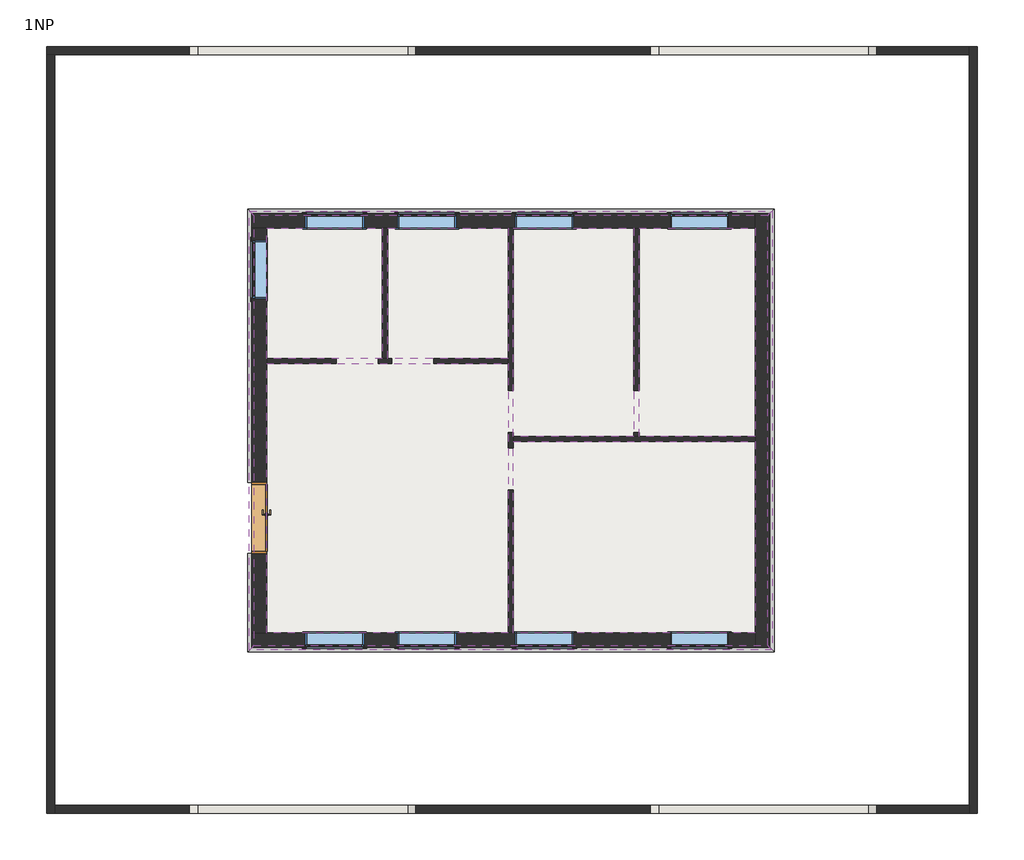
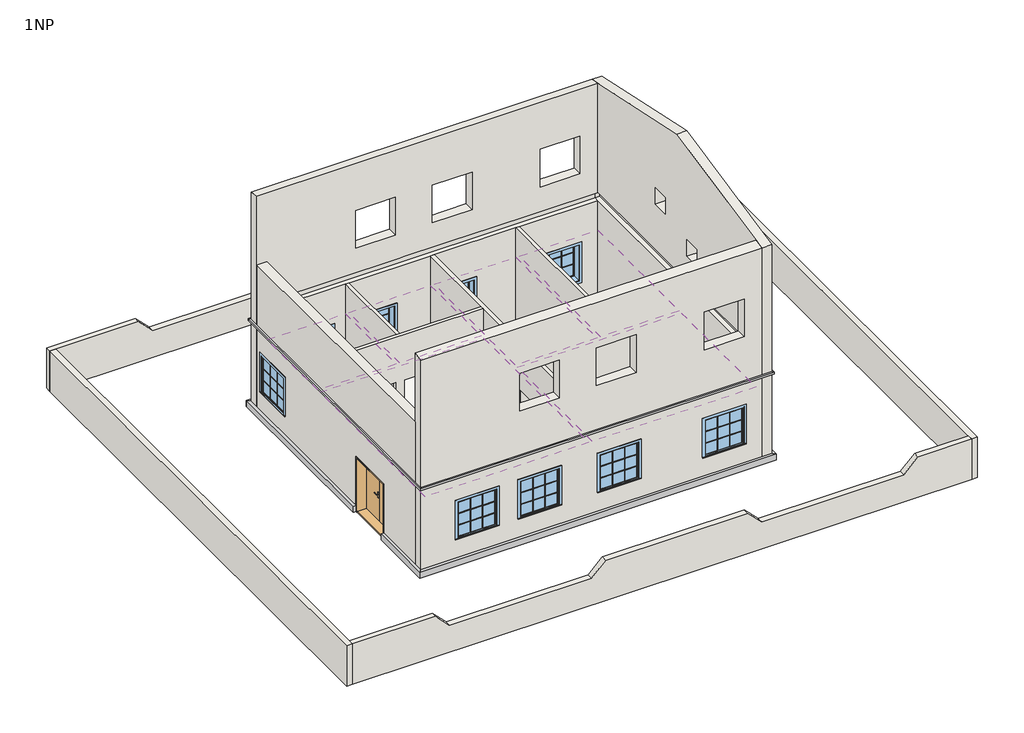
# One storey, incomplete: 13 walls, 9 windows, 8 proxies, 6 coverings, 1 door, 1 slab.
"""IFC4 building model written with IfcOpenShell, lengths in millimetres."""

from ifc_helpers import new_model, si_unit, frame, origin, origin_with_axes, place, context, project, spatial, polyline, outline, extrude, faceted_brep, transform, mapped, element, save
from components import door_1800_x_2000_69ae4523, m_casement_3x3_with_trim_1100_x_1400_df31fcd5

model = new_model("IFC4")

# Units and contexts
model_context = context("Model", 3, world=origin())
ifc_project = project(units=[si_unit("LENGTHUNIT", "METRE", prefix="MILLI")], contexts=[model_context])

# Site, building, storey
site = spatial("IfcSite", under=ifc_project)
building = spatial("IfcBuilding", under=site)
storey = spatial("IfcBuildingStorey", under=building, Name="1NP", Elevation=0.0)

# Proxies
placement = place(None, origin())
element("IfcBuildingElementProxy", 1, Name="Reveals", at=placement, inside=storey, context=model_context, shape_type="SweptSolid", body=[
    extrude(outline(polyline([(41581.5997597, 8705.2898989), (41684.0997597, 8602.7898989), (29219.0997597, 8602.7898989), (29321.5997597, 8705.2898989), (41581.5997597, 8705.2898989)])), frame((0.0, 0.0, 3200.0), z_axis=(0.0, 0.0, 1.0), x_axis=(1.0, 0.0, 0.0)), (0.0, 0.0, 1.0), 75.0),
])
element("IfcBuildingElementProxy", 2, Name="Wall Sweeps", at=placement, inside=storey, context=model_context, shape_type="Brep", body=[
    faceted_brep([(41729.0997597, 8557.7898989, 225.0), (41729.0997597, 8557.7898989, 0.0), (41626.5997597, 8660.2898989, 0.0), (41626.5997597, 8660.2898989, 225.0), (29174.0997597, 8557.7898989, 225.0), (29276.5997597, 8660.2898989, 225.0), (29276.5997597, 8660.2898989, 0.0), (29174.0997597, 8557.7898989, 0.0), (41276.5997597, 8660.2898989, 0.0)], [[[0, 1, 2, 3]], [[4, 5, 6, 7]], [[1, 0, 4, 7]], [[2, 1, 7, 6, 8]], [[3, 2, 8, 6, 5]], [[0, 3, 5, 4]]]),
])
element("IfcBuildingElementProxy", 3, Name="Reveals", at=placement, inside=storey, context=model_context, shape_type="SweptSolid", body=[
    extrude(outline(polyline([(29321.5997597, 18965.2898989), (29219.0997597, 19067.7898989), (41684.0997597, 19067.7898989), (41581.5997597, 18965.2898989), (29321.5997597, 18965.2898989)])), frame((0.0, 0.0, 3200.0), z_axis=(0.0, 0.0, 1.0), x_axis=(1.0, 0.0, 0.0)), (0.0, 0.0, 1.0), 75.0),
])
element("IfcBuildingElementProxy", 4, Name="Wall Sweeps", at=placement, inside=storey, context=model_context, shape_type="Brep", body=[
    faceted_brep([(29174.0997597, 19112.7898989, 225.0), (29174.0997597, 19112.7898989, 0.0), (29276.5997597, 19010.2898989, 0.0), (29276.5997597, 19010.2898989, 225.0), (41729.0997597, 19112.7898989, 225.0), (41626.5997597, 19010.2898989, 225.0), (41626.5997597, 19010.2898989, 0.0), (41729.0997597, 19112.7898989, 0.0), (41276.5997597, 19010.2898989, 0.0)], [[[0, 1, 2, 3]], [[4, 5, 6, 7]], [[1, 0, 4, 7]], [[2, 1, 7, 6, 8]], [[3, 2, 8, 6, 5]], [[0, 3, 5, 4]]]),
])
element("IfcBuildingElementProxy", 5, Name="Reveals", at=placement, inside=storey, context=model_context, shape_type="SweptSolid", body=[
    extrude(outline(polyline([(29321.5997597, 8705.2898989), (29219.0997597, 8602.7898989), (29219.0997597, 19067.7898989), (29321.5997597, 18965.2898989), (29321.5997597, 8705.2898989)])), frame((0.0, 0.0, 3200.0), z_axis=(0.0, 0.0, 1.0), x_axis=(1.0, 0.0, 0.0)), (0.0, 0.0, 1.0), 75.0),
])
element("IfcBuildingElementProxy", 6, Name="Wall Sweeps", at=placement, inside=storey, context=model_context, shape_type="Brep", body=[
    faceted_brep([(29174.0997597, 8557.7898989, 225.0), (29174.0997597, 8557.7898989, 0.0), (29276.5997597, 8660.2898989, 0.0), (29276.5997597, 8660.2898989, 225.0), (29174.0997597, 10900.2898989, 225.0), (29276.5997597, 10900.2898989, 225.0), (29276.5997597, 10900.2898989, 0.0), (29174.0997597, 10900.2898989, 0.0), (29276.5997597, 9010.2898989, 0.0)], [[[0, 1, 2, 3]], [[4, 5, 6, 7]], [[1, 0, 4, 7]], [[2, 1, 7, 6, 8]], [[3, 2, 8, 6, 5]], [[0, 3, 5, 4]]]),
    faceted_brep([(29174.0997597, 12600.2898989, 225.0), (29174.0997597, 12600.2898989, 0.0), (29276.5997597, 12600.2898989, 0.0), (29276.5997597, 12600.2898989, 225.0), (29174.0997597, 19112.7898989, 225.0), (29276.5997597, 19010.2898989, 225.0), (29276.5997597, 19010.2898989, 0.0), (29174.0997597, 19112.7898989, 0.0), (29276.5997597, 18660.2898989, 0.0)], [[[0, 1, 2, 3]], [[4, 5, 6, 7]], [[1, 0, 4, 7]], [[2, 1, 7, 6, 8]], [[3, 2, 8, 6, 5]], [[0, 3, 5, 4]]]),
])
element("IfcBuildingElementProxy", 7, Name="Reveals", at=placement, inside=storey, context=model_context, shape_type="SweptSolid", body=[
    extrude(outline(polyline([(41581.5997597, 18965.2898989), (41684.0997597, 19067.7898989), (41684.0997597, 8602.7898989), (41581.5997597, 8705.2898989), (41581.5997597, 18965.2898989)])), frame((0.0, 0.0, 3200.0), z_axis=(0.0, 0.0, 1.0), x_axis=(1.0, 0.0, 0.0)), (0.0, 0.0, 1.0), 75.0),
])
element("IfcBuildingElementProxy", 8, Name="Wall Sweeps", at=placement, inside=storey, context=model_context, shape_type="SweptSolid", body=[
    extrude(outline(polyline([(41626.5997597, 19010.2898989), (41729.0997597, 19112.7898989), (41729.0997597, 8557.7898989), (41626.5997597, 8660.2898989), (41626.5997597, 19010.2898989)])), origin_with_axes(), (0.0, 0.0, 1.0), 225.0),
])

# Coverings
element("IfcCovering", 9, ObjectType="600 x 1200mm Grid", at=placement, inside=storey, context=model_context, shape_type="SweptSolid", body=[
    extrude(outline(polyline([(29626.5997597, 18660.2898989), (32389.5997597, 18660.2898989), (32389.5997597, 15553.6571646), (29626.5997597, 15553.6571646), (29626.5997597, 18660.2898989)])), frame((0.0, 0.0, 2600.0), z_axis=(0.0, 0.0, 1.0), x_axis=(1.0, 0.0, 0.0)), (0.0, 0.0, 1.0), 52.0),
])
element("IfcCovering", 10, ObjectType="600 x 1200mm Grid", at=placement, inside=storey, context=model_context, shape_type="SweptSolid", body=[
    extrude(outline(polyline([(32513.5997597, 18660.2898989), (35389.5997597, 18660.2898989), (35389.5997597, 15553.6571646), (32513.5997597, 15553.6571646), (32513.5997597, 18660.2898989)])), frame((0.0, 0.0, 2600.0), z_axis=(0.0, 0.0, 1.0), x_axis=(1.0, 0.0, 0.0)), (0.0, 0.0, 1.0), 52.0),
])
element("IfcCovering", 11, ObjectType="600 x 1200mm Grid", at=placement, inside=storey, context=model_context, shape_type="SweptSolid", body=[
    extrude(outline(polyline([(35513.5997597, 13697.2898989), (35513.5997597, 18660.2898989), (38389.5997597, 18660.2898989), (38389.5997597, 13697.2898989), (35513.5997597, 13697.2898989)])), frame((0.0, 0.0, 2600.0), z_axis=(0.0, 0.0, 1.0), x_axis=(1.0, 0.0, 0.0)), (0.0, 0.0, 1.0), 52.0),
])
element("IfcCovering", 12, ObjectType="600 x 1200mm Grid", at=placement, inside=storey, context=model_context, shape_type="SweptSolid", body=[
    extrude(outline(polyline([(38513.5997597, 18660.2898989), (41276.5997597, 18660.2898989), (41276.5997597, 13697.2898989), (38513.5997597, 13697.2898989), (38513.5997597, 18660.2898989)])), frame((0.0, 0.0, 2600.0), z_axis=(0.0, 0.0, 1.0), x_axis=(1.0, 0.0, 0.0)), (0.0, 0.0, 1.0), 52.0),
])
element("IfcCovering", 13, ObjectType="600 x 1200mm Grid", at=placement, inside=storey, context=model_context, shape_type="SweptSolid", body=[
    extrude(outline(polyline([(41276.5997597, 9010.2898989), (35513.5997597, 9010.2898989), (35513.5997597, 13573.2898989), (41276.5997597, 13573.2898989), (41276.5997597, 9010.2898989)])), frame((0.0, 0.0, 2600.0), z_axis=(0.0, 0.0, 1.0), x_axis=(1.0, 0.0, 0.0)), (0.0, 0.0, 1.0), 52.0),
])
element("IfcCovering", 14, ObjectType="600 x 1200mm Grid", at=placement, inside=storey, context=model_context, shape_type="SweptSolid", body=[
    extrude(outline(polyline([(29626.5997597, 9010.2898989), (29626.5997597, 15429.6571646), (35389.5997597, 15429.6571646), (35389.5997597, 9010.2898989), (29626.5997597, 9010.2898989)])), frame((0.0, 0.0, 2600.0), z_axis=(0.0, 0.0, 1.0), x_axis=(1.0, 0.0, 0.0)), (0.0, 0.0, 1.0), 52.0),
])

# Door
door_1800_x_2000_shape = door_1800_x_2000_69ae4523(model_context)
element("IfcDoor", 15, ObjectType="Dvoukridle oboustrana zaruben : 1800 x 2000", at=placement, inside=storey, context=model_context, shape_type="MappedRepresentation", body=[
    mapped(door_1800_x_2000_shape, transform((29451.5997597, 11730.2898989, 0.0), x_axis=(0.0, -1.0, 0.0), y_axis=(1.0, 0.0, 0.0), z_axis=(0.0, 0.0, 1.0))),
])

# Slab
element("IfcSlab", 16, ObjectType="Generic 300mm", at=placement, inside=storey, context=model_context, shape_type="SweptSolid", body=[
    extrude(outline(polyline([(29613.5997597, 18673.2898989), (41289.5997597, 18673.2898989), (41289.5997597, 8997.2898989), (29613.5997597, 8997.2898989), (29613.5997597, 18673.2898989)])), frame((0.0, 0.0, -300.0), z_axis=(0.0, 0.0, 1.0), x_axis=(1.0, 0.0, 0.0)), (0.0, 0.0, 1.0), 300.0),
])

# Walls
element("IfcWall", 17, ObjectType="Exterior-Brick on Mtl. Stud with Base", at=placement, inside=storey, context=model_context, shape_type="Brep", body=[
    faceted_brep([(29276.5997597, 18660.2898989, 0.0), (29626.5997597, 18660.2898989, 0.0), (32389.5997597, 18660.2898989, 0.0), (32513.5997597, 18660.2898989, 0.0), (35389.5997597, 18660.2898989, 0.0), (35513.5997597, 18660.2898989, 0.0), (38389.5997597, 18660.2898989, 0.0), (38513.5997597, 18660.2898989, 0.0), (41276.5997597, 18660.2898989, 0.0), (41276.5997597, 18660.2898989, 3700.0), (38513.5997597, 18660.2898989, 3700.0), (38389.5997597, 18660.2898989, 3700.0), (35513.5997597, 18660.2898989, 3700.0), (35389.5997597, 18660.2898989, 3700.0), (32513.5997597, 18660.2898989, 3700.0), (32389.5997597, 18660.2898989, 3700.0), (29626.5997597, 18660.2898989, 3700.0), (29461.5997597, 18660.2898989, 3700.0), (29461.5997597, 18660.2898989, 4000.0), (29626.5997597, 18660.2898989, 4000.0), (34307.355701, 18660.2898989, 4000.0), (34431.355701, 18660.2898989, 4000.0), (37102.5997597, 18660.2898989, 4000.0), (37226.5997597, 18660.2898989, 4000.0), (41276.5997597, 18660.2898989, 4000.0), (41276.5997597, 18660.2898989, 8074.3947966), (29276.5997597, 18660.2898989, 8074.3947966), (29276.5997597, 18660.2898989, 5500.0), (29276.5997597, 18660.2898989, 3275.0), (29321.5997597, 18660.2898989, 3275.0), (29321.5997597, 18660.2898989, 3200.0), (29276.5997597, 18660.2898989, 3200.0), (29276.5997597, 18660.2898989, 225.0), (31951.5997597, 18660.2898989, 2315.0), (31951.5997597, 18660.2898989, 915.0), (30551.5997597, 18660.2898989, 915.0), (30551.5997597, 18660.2898989, 2315.0), (34151.5997597, 18660.2898989, 2315.0), (34151.5997597, 18660.2898989, 915.0), (32751.5997597, 18660.2898989, 915.0), (32751.5997597, 18660.2898989, 2315.0), (36951.5997597, 18660.2898989, 2315.0), (36951.5997597, 18660.2898989, 915.0), (35551.5997597, 18660.2898989, 915.0), (35551.5997597, 18660.2898989, 2315.0), (40651.5997597, 18660.2898989, 2315.0), (40651.5997597, 18660.2898989, 915.0), (39251.5997597, 18660.2898989, 915.0), (39251.5997597, 18660.2898989, 2315.0), (34151.5997597, 18660.2898989, 6315.0), (34151.5997597, 18660.2898989, 4915.0), (32751.5997597, 18660.2898989, 4915.0), (32751.5997597, 18660.2898989, 6315.0), (36851.5997597, 18660.2898989, 6315.0), (36851.5997597, 18660.2898989, 4915.0), (35451.5997597, 18660.2898989, 4915.0), (35451.5997597, 18660.2898989, 6315.0), (40651.5997597, 18660.2898989, 6315.0), (40651.5997597, 18660.2898989, 4915.0), (39251.5997597, 18660.2898989, 4915.0), (39251.5997597, 18660.2898989, 6315.0), (41276.5997597, 19010.2898989, 0.0), (29276.5997597, 19010.2898989, 0.0), (29276.5997597, 19010.2898989, 225.0), (29276.5997597, 19010.2898989, 3200.0), (41276.5997597, 19010.2898989, 3200.0), (41276.5997597, 19010.2898989, 225.0), (31951.5997597, 19010.2898989, 915.0), (31951.5997597, 19010.2898989, 2315.0), (30551.5997597, 19010.2898989, 2315.0), (30551.5997597, 19010.2898989, 915.0), (34151.5997597, 19010.2898989, 915.0), (34151.5997597, 19010.2898989, 2315.0), (32751.5997597, 19010.2898989, 2315.0), (32751.5997597, 19010.2898989, 915.0), (36951.5997597, 19010.2898989, 915.0), (36951.5997597, 19010.2898989, 2315.0), (35551.5997597, 19010.2898989, 2315.0), (35551.5997597, 19010.2898989, 915.0), (40651.5997597, 19010.2898989, 915.0), (40651.5997597, 19010.2898989, 2315.0), (39251.5997597, 19010.2898989, 2315.0), (39251.5997597, 19010.2898989, 915.0), (29276.5997597, 19010.2898989, 8000.0), (41276.5997597, 19010.2898989, 8000.0), (41276.5997597, 19010.2898989, 3275.0), (29276.5997597, 19010.2898989, 3275.0), (34151.5997597, 19010.2898989, 4915.0), (34151.5997597, 19010.2898989, 6315.0), (32751.5997597, 19010.2898989, 6315.0), (32751.5997597, 19010.2898989, 4915.0), (36851.5997597, 19010.2898989, 4915.0), (36851.5997597, 19010.2898989, 6315.0), (35451.5997597, 19010.2898989, 6315.0), (35451.5997597, 19010.2898989, 4915.0), (40651.5997597, 19010.2898989, 4915.0), (40651.5997597, 19010.2898989, 6315.0), (39251.5997597, 19010.2898989, 6315.0), (39251.5997597, 19010.2898989, 4915.0), (41276.5997597, 18965.2898989, 3200.0), (41276.5997597, 18965.2898989, 3275.0), (41276.5997597, 18825.2898989, 4000.0), (41276.5997597, 18825.2898989, 3700.0), (29461.5997597, 18825.2898989, 3700.0), (29461.5997597, 18825.2898989, 4000.0), (29321.5997597, 18965.2898989, 3275.0), (29321.5997597, 18965.2898989, 3200.0)], [[[0, 1, 2, 3, 4, 5, 6, 7, 8, 9, 10, 11, 12, 13, 14, 15, 16, 17, 18, 19, 20, 21, 22, 23, 24, 25, 26, 27, 28, 29, 30, 31, 32], [33, 34, 35, 36], [37, 38, 39, 40], [41, 42, 43, 44], [45, 46, 47, 48], [49, 50, 51, 52], [53, 54, 55, 56], [57, 58, 59, 60]], [[61, 62, 63, 64, 65, 66], [67, 68, 69, 70], [71, 72, 73, 74], [75, 76, 77, 78], [79, 80, 81, 82]], [[83, 84, 85, 86], [87, 88, 89, 90], [91, 92, 93, 94], [95, 96, 97, 98]], [[8, 7, 6, 5, 4, 3, 2, 1, 0, 62, 61]], [[62, 0, 32, 31, 64, 63]], [[26, 83, 86, 28, 27]], [[8, 61, 66, 65, 99, 100, 85, 84, 25, 24, 101, 102, 9]], [[26, 25, 84, 83]], [[34, 33, 68, 67]], [[35, 34, 67, 70]], [[36, 35, 70, 69]], [[33, 36, 69, 68]], [[38, 37, 72, 71]], [[39, 38, 71, 74]], [[40, 39, 74, 73]], [[37, 40, 73, 72]], [[42, 41, 76, 75]], [[43, 42, 75, 78]], [[44, 43, 78, 77]], [[41, 44, 77, 76]], [[46, 45, 80, 79]], [[47, 46, 79, 82]], [[48, 47, 82, 81]], [[45, 48, 81, 80]], [[50, 49, 88, 87]], [[51, 50, 87, 90]], [[52, 51, 90, 89]], [[49, 52, 89, 88]], [[54, 53, 92, 91]], [[55, 54, 91, 94]], [[56, 55, 94, 93]], [[53, 56, 93, 92]], [[58, 57, 96, 95]], [[59, 58, 95, 98]], [[60, 59, 98, 97]], [[57, 60, 97, 96]], [[103, 17, 16, 15, 14, 13, 12, 11, 10, 9, 102]], [[104, 101, 24, 23, 22, 21, 20, 19, 18]], [[104, 103, 102, 101]], [[103, 104, 18, 17]], [[100, 105, 29, 28, 86, 85]], [[30, 106, 99, 65, 64, 31]], [[105, 106, 30, 29]], [[106, 105, 100, 99]]]),
])
element("IfcWall", 18, ObjectType="Exterior-Brick on Mtl. Stud with Base", at=placement, inside=storey, context=model_context, shape_type="Brep", body=[
    faceted_brep([(29626.5997597, 18660.2898989, 5500.0), (29626.5997597, 9010.2898989, 5500.0), (29626.5997597, 9010.2898989, 4000.0), (29626.5997597, 18660.2898989, 4000.0), (29626.5997597, 10900.2898989, 0.0), (29626.5997597, 10900.2898989, 2050.0), (29626.5997597, 12600.2898989, 2050.0), (29626.5997597, 12600.2898989, 0.0), (29626.5997597, 15429.6571646, 0.0), (29626.5997597, 15553.6571646, 0.0), (29626.5997597, 18660.2898989, 0.0), (29626.5997597, 18660.2898989, 3700.0), (29626.5997597, 15553.6571646, 3700.0), (29626.5997597, 15429.6571646, 3700.0), (29626.5997597, 9010.2898989, 3700.0), (29626.5997597, 9010.2898989, 0.0), (29626.5997597, 18377.7898989, 2315.0), (29626.5997597, 18377.7898989, 915.0), (29626.5997597, 16977.7898989, 915.0), (29626.5997597, 16977.7898989, 2315.0), (29276.5997597, 9010.2898989, 5500.0), (29276.5997597, 18660.2898989, 5500.0), (29276.5997597, 18660.2898989, 3275.0), (29276.5997597, 9010.2898989, 3275.0), (29276.5997597, 12600.2898989, 2050.0), (29276.5997597, 10900.2898989, 2050.0), (29276.5997597, 10900.2898989, 225.0), (29276.5997597, 10900.2898989, 0.0), (29276.5997597, 9010.2898989, 0.0), (29276.5997597, 9010.2898989, 225.0), (29276.5997597, 9010.2898989, 3200.0), (29276.5997597, 18660.2898989, 3200.0), (29276.5997597, 18660.2898989, 225.0), (29276.5997597, 18660.2898989, 0.0), (29276.5997597, 12600.2898989, 0.0), (29276.5997597, 12600.2898989, 225.0), (29276.5997597, 18377.7898989, 915.0), (29276.5997597, 18377.7898989, 2315.0), (29276.5997597, 16977.7898989, 2315.0), (29276.5997597, 16977.7898989, 915.0), (29321.5997597, 18660.2898989, 3200.0), (29321.5997597, 18660.2898989, 3275.0), (29461.5997597, 18660.2898989, 4000.0), (29461.5997597, 18660.2898989, 3700.0), (29321.5997597, 9010.2898989, 3275.0), (29321.5997597, 9010.2898989, 3200.0), (29461.5997597, 9010.2898989, 3700.0), (29461.5997597, 9010.2898989, 4000.0)], [[[0, 1, 2, 3]], [[4, 5, 6, 7, 8, 9, 10, 11, 12, 13, 14, 15], [16, 17, 18, 19]], [[20, 21, 22, 23]], [[24, 25, 26, 27, 28, 29, 30, 31, 32, 33, 34, 35], [36, 37, 38, 39]], [[33, 10, 9, 8, 7, 34]], [[15, 28, 27, 4]], [[1, 0, 21, 20]], [[10, 33, 32, 31, 40, 41, 22, 21, 0, 3, 42, 43, 11]], [[1, 20, 23, 44, 45, 30, 29, 28, 15, 14, 46, 47, 2]], [[5, 4, 27, 26, 25]], [[6, 5, 25, 24]], [[7, 6, 24, 35, 34]], [[17, 16, 37, 36]], [[18, 17, 36, 39]], [[19, 18, 39, 38]], [[16, 19, 38, 37]], [[43, 46, 14, 13, 12, 11]], [[47, 42, 3, 2]], [[46, 43, 42, 47]], [[41, 44, 23, 22]], [[45, 40, 31, 30]], [[44, 41, 40, 45]]]),
])
element("IfcWall", 19, ObjectType="Exterior-Brick on Mtl. Stud with Base", at=placement, inside=storey, context=model_context, shape_type="Brep", body=[
    faceted_brep([(41276.5997597, 9010.2898989, 0.0), (35513.5997597, 9010.2898989, 0.0), (35389.5997597, 9010.2898989, 0.0), (29626.5997597, 9010.2898989, 0.0), (29276.5997597, 9010.2898989, 0.0), (29276.5997597, 9010.2898989, 225.0), (29276.5997597, 9010.2898989, 3200.0), (29321.5997597, 9010.2898989, 3200.0), (29321.5997597, 9010.2898989, 3275.0), (29276.5997597, 9010.2898989, 3275.0), (29276.5997597, 9010.2898989, 5500.0), (29276.5997597, 9010.2898989, 8074.3947966), (41276.5997597, 9010.2898989, 8074.3947966), (41276.5997597, 9010.2898989, 4000.0), (37226.5997597, 9010.2898989, 4000.0), (37102.5997597, 9010.2898989, 4000.0), (34431.355701, 9010.2898989, 4000.0), (34307.355701, 9010.2898989, 4000.0), (29626.5997597, 9010.2898989, 4000.0), (29461.5997597, 9010.2898989, 4000.0), (29461.5997597, 9010.2898989, 3700.0), (29626.5997597, 9010.2898989, 3700.0), (35389.5997597, 9010.2898989, 3700.0), (35513.5997597, 9010.2898989, 3700.0), (41276.5997597, 9010.2898989, 3700.0), (39251.5997597, 9010.2898989, 2315.0), (39251.5997597, 9010.2898989, 915.0), (40651.5997597, 9010.2898989, 915.0), (40651.5997597, 9010.2898989, 2315.0), (35551.5997597, 9010.2898989, 2315.0), (35551.5997597, 9010.2898989, 915.0), (36951.5997597, 9010.2898989, 915.0), (36951.5997597, 9010.2898989, 2315.0), (32751.5997597, 9010.2898989, 2315.0), (32751.5997597, 9010.2898989, 915.0), (34151.5997597, 9010.2898989, 915.0), (34151.5997597, 9010.2898989, 2315.0), (30551.5997597, 9010.2898989, 2315.0), (30551.5997597, 9010.2898989, 915.0), (31951.5997597, 9010.2898989, 915.0), (31951.5997597, 9010.2898989, 2315.0), (39251.5997597, 9010.2898989, 6315.0), (39251.5997597, 9010.2898989, 4915.0), (40651.5997597, 9010.2898989, 4915.0), (40651.5997597, 9010.2898989, 6315.0), (35451.5997597, 9010.2898989, 6315.0), (35451.5997597, 9010.2898989, 4915.0), (36851.5997597, 9010.2898989, 4915.0), (36851.5997597, 9010.2898989, 6315.0), (32751.5997597, 9010.2898989, 6315.0), (32751.5997597, 9010.2898989, 4915.0), (34151.5997597, 9010.2898989, 4915.0), (34151.5997597, 9010.2898989, 6315.0), (29276.5997597, 8660.2898989, 0.0), (41276.5997597, 8660.2898989, 0.0), (41276.5997597, 8660.2898989, 225.0), (41276.5997597, 8660.2898989, 3200.0), (29276.5997597, 8660.2898989, 3200.0), (29276.5997597, 8660.2898989, 225.0), (39251.5997597, 8660.2898989, 915.0), (39251.5997597, 8660.2898989, 2315.0), (40651.5997597, 8660.2898989, 2315.0), (40651.5997597, 8660.2898989, 915.0), (35551.5997597, 8660.2898989, 915.0), (35551.5997597, 8660.2898989, 2315.0), (36951.5997597, 8660.2898989, 2315.0), (36951.5997597, 8660.2898989, 915.0), (32751.5997597, 8660.2898989, 915.0), (32751.5997597, 8660.2898989, 2315.0), (34151.5997597, 8660.2898989, 2315.0), (34151.5997597, 8660.2898989, 915.0), (30551.5997597, 8660.2898989, 915.0), (30551.5997597, 8660.2898989, 2315.0), (31951.5997597, 8660.2898989, 2315.0), (31951.5997597, 8660.2898989, 915.0), (41276.5997597, 8660.2898989, 8000.0), (29276.5997597, 8660.2898989, 8000.0), (29276.5997597, 8660.2898989, 3275.0), (41276.5997597, 8660.2898989, 3275.0), (39251.5997597, 8660.2898989, 4915.0), (39251.5997597, 8660.2898989, 6315.0), (40651.5997597, 8660.2898989, 6315.0), (40651.5997597, 8660.2898989, 4915.0), (35451.5997597, 8660.2898989, 4915.0), (35451.5997597, 8660.2898989, 6315.0), (36851.5997597, 8660.2898989, 6315.0), (36851.5997597, 8660.2898989, 4915.0), (32751.5997597, 8660.2898989, 4915.0), (32751.5997597, 8660.2898989, 6315.0), (34151.5997597, 8660.2898989, 6315.0), (34151.5997597, 8660.2898989, 4915.0), (41276.5997597, 8845.2898989, 3700.0), (41276.5997597, 8845.2898989, 4000.0), (41276.5997597, 8705.2898989, 3275.0), (41276.5997597, 8705.2898989, 3200.0), (29461.5997597, 8845.2898989, 3700.0), (29461.5997597, 8845.2898989, 4000.0), (29321.5997597, 8705.2898989, 3275.0), (29321.5997597, 8705.2898989, 3200.0)], [[[0, 1, 2, 3, 4, 5, 6, 7, 8, 9, 10, 11, 12, 13, 14, 15, 16, 17, 18, 19, 20, 21, 22, 23, 24], [25, 26, 27, 28], [29, 30, 31, 32], [33, 34, 35, 36], [37, 38, 39, 40], [41, 42, 43, 44], [45, 46, 47, 48], [49, 50, 51, 52]], [[53, 54, 55, 56, 57, 58], [59, 60, 61, 62], [63, 64, 65, 66], [67, 68, 69, 70], [71, 72, 73, 74]], [[75, 76, 77, 78], [79, 80, 81, 82], [83, 84, 85, 86], [87, 88, 89, 90]], [[4, 3, 2, 1, 0, 54, 53]], [[4, 53, 58, 57, 6, 5]], [[76, 11, 10, 9, 77]], [[54, 0, 24, 91, 92, 13, 12, 75, 78, 93, 94, 56, 55]], [[12, 11, 76, 75]], [[26, 25, 60, 59]], [[27, 26, 59, 62]], [[28, 27, 62, 61]], [[25, 28, 61, 60]], [[30, 29, 64, 63]], [[31, 30, 63, 66]], [[32, 31, 66, 65]], [[29, 32, 65, 64]], [[34, 33, 68, 67]], [[35, 34, 67, 70]], [[36, 35, 70, 69]], [[33, 36, 69, 68]], [[38, 37, 72, 71]], [[39, 38, 71, 74]], [[40, 39, 74, 73]], [[37, 40, 73, 72]], [[42, 41, 80, 79]], [[43, 42, 79, 82]], [[44, 43, 82, 81]], [[41, 44, 81, 80]], [[46, 45, 84, 83]], [[47, 46, 83, 86]], [[48, 47, 86, 85]], [[45, 48, 85, 84]], [[50, 49, 88, 87]], [[51, 50, 87, 90]], [[52, 51, 90, 89]], [[49, 52, 89, 88]], [[20, 95, 91, 24, 23, 22, 21]], [[92, 96, 19, 18, 17, 16, 15, 14, 13]], [[95, 96, 92, 91]], [[96, 95, 20, 19]], [[8, 97, 93, 78, 77, 9]], [[94, 98, 7, 6, 57, 56]], [[97, 98, 94, 93]], [[98, 97, 8, 7]]]),
])
element("IfcWall", 20, ObjectType="Exterior-Brick on Mtl. Stud with Base", at=placement, inside=storey, context=model_context, shape_type="Brep", body=[
    faceted_brep([(41276.5997597, 19010.2898989, 0.0), (41276.5997597, 18660.2898989, 0.0), (41276.5997597, 13697.2898989, 0.0), (41276.5997597, 13573.2898989, 0.0), (41276.5997597, 9010.2898989, 0.0), (41276.5997597, 8660.2898989, 0.0), (41276.5997597, 8660.2898989, 225.0), (41276.5997597, 8660.2898989, 3200.0), (41276.5997597, 8705.2898989, 3200.0), (41276.5997597, 8705.2898989, 3275.0), (41276.5997597, 8660.2898989, 3275.0), (41276.5997597, 8660.2898989, 8000.0), (41276.5997597, 9010.2898989, 8074.3947966), (41276.5997597, 13835.2898989, 9099.9802066), (41276.5997597, 18660.2898989, 8074.3947966), (41276.5997597, 19010.2898989, 8000.0), (41276.5997597, 19010.2898989, 3275.0), (41276.5997597, 18965.2898989, 3275.0), (41276.5997597, 18965.2898989, 3200.0), (41276.5997597, 19010.2898989, 3200.0), (41276.5997597, 19010.2898989, 225.0), (41276.5997597, 14530.2898989, 6315.0), (41276.5997597, 14530.2898989, 5705.0), (41276.5997597, 15140.2898989, 5705.0), (41276.5997597, 15140.2898989, 6315.0), (41276.5997597, 12630.2898989, 5525.0), (41276.5997597, 12630.2898989, 4915.0), (41276.5997597, 13240.2898989, 4915.0), (41276.5997597, 13240.2898989, 5525.0), (41276.5997597, 8845.2898989, 3700.0), (41276.5997597, 9010.2898989, 3700.0), (41276.5997597, 13573.2898989, 3700.0), (41276.5997597, 13697.2898989, 3700.0), (41276.5997597, 18660.2898989, 3700.0), (41276.5997597, 18825.2898989, 3700.0), (41276.5997597, 18825.2898989, 4000.0), (41276.5997597, 18660.2898989, 4000.0), (41276.5997597, 16097.2898989, 4000.0), (41276.5997597, 15973.2898989, 4000.0), (41276.5997597, 13897.2898989, 4000.0), (41276.5997597, 13773.2898989, 4000.0), (41276.5997597, 11697.2898989, 4000.0), (41276.5997597, 11573.2898989, 4000.0), (41276.5997597, 9010.2898989, 4000.0), (41276.5997597, 8845.2898989, 4000.0), (41626.5997597, 8660.2898989, 0.0), (41626.5997597, 19010.2898989, 0.0), (41626.5997597, 19010.2898989, 225.0), (41626.5997597, 19010.2898989, 3200.0), (41626.5997597, 8660.2898989, 3200.0), (41626.5997597, 8660.2898989, 225.0), (41626.5997597, 19010.2898989, 8000.0), (41626.5997597, 13835.2898989, 9099.9802066), (41626.5997597, 8660.2898989, 8000.0), (41626.5997597, 8660.2898989, 3275.0), (41626.5997597, 19010.2898989, 3275.0), (41626.5997597, 14530.2898989, 5705.0), (41626.5997597, 14530.2898989, 6315.0), (41626.5997597, 15140.2898989, 6315.0), (41626.5997597, 15140.2898989, 5705.0), (41626.5997597, 12630.2898989, 4915.0), (41626.5997597, 12630.2898989, 5525.0), (41626.5997597, 13240.2898989, 5525.0), (41626.5997597, 13240.2898989, 4915.0), (41441.5997597, 8845.2898989, 3700.0), (41441.5997597, 18825.2898989, 3700.0), (41441.5997597, 18825.2898989, 4000.0), (41441.5997597, 8845.2898989, 4000.0), (41581.5997597, 8705.2898989, 3275.0), (41581.5997597, 18965.2898989, 3275.0), (41581.5997597, 18965.2898989, 3200.0), (41581.5997597, 8705.2898989, 3200.0)], [[[0, 1, 2, 3, 4, 5, 6, 7, 8, 9, 10, 11, 12, 13, 14, 15, 16, 17, 18, 19, 20], [21, 22, 23, 24], [25, 26, 27, 28], [29, 30, 31, 32, 33, 34, 35, 36, 37, 38, 39, 40, 41, 42, 43, 44]], [[45, 46, 47, 48, 49, 50]], [[51, 52, 53, 54, 55], [56, 57, 58, 59], [60, 61, 62, 63]], [[5, 4, 3, 2, 1, 0, 46, 45]], [[15, 51, 55, 16]], [[46, 0, 20, 19, 48, 47]], [[5, 45, 50, 49, 7, 6]], [[53, 11, 10, 54]], [[51, 15, 14, 13, 52]], [[11, 53, 52, 13, 12]], [[22, 21, 57, 56]], [[23, 22, 56, 59]], [[24, 23, 59, 58]], [[21, 24, 58, 57]], [[26, 25, 61, 60]], [[27, 26, 60, 63]], [[28, 27, 63, 62]], [[25, 28, 62, 61]], [[64, 65, 34, 33, 32, 31, 30, 29]], [[66, 67, 44, 43, 42, 41, 40, 39, 38, 37, 36, 35]], [[65, 66, 35, 34]], [[65, 64, 67, 66]], [[67, 64, 29, 44]], [[68, 69, 17, 16, 55, 54, 10, 9]], [[70, 71, 8, 7, 49, 48, 19, 18]], [[69, 70, 18, 17]], [[69, 68, 71, 70]], [[71, 68, 9, 8]]]),
])
element("IfcWall", 21, ObjectType="Generic - 200mm", at=placement, inside=storey, context=model_context, shape_type="Brep", body=[
    faceted_brep([(24380.2365142, 22798.2848616, 0.0), (24580.2365142, 22798.2848616, 0.0), (46380.2365142, 22798.2848616, 0.0), (46380.2365142, 22798.2848616, 1500.0), (44480.2365142, 22798.2848616, 1500.0), (43985.2617674, 22798.2848616, 1005.0252532), (38985.2617674, 22798.2848616, 1005.0252532), (38490.2870206, 22798.2848616, 1500.0), (33490.2870206, 22798.2848616, 1500.0), (32995.3122737, 22798.2848616, 1005.0252532), (27995.3122737, 22798.2848616, 1005.0252532), (27500.3375269, 22798.2848616, 1500.0), (24580.2365142, 22798.2848616, 1500.0), (24380.2365142, 22798.2848616, 1500.0), (24380.2365142, 22998.2848616, 0.0), (24380.2365142, 22998.2848616, 1500.0), (27500.3375269, 22998.2848616, 1500.0), (27995.3122737, 22998.2848616, 1005.0252532), (32995.3122737, 22998.2848616, 1005.0252532), (33490.2870206, 22998.2848616, 1500.0), (38490.2870206, 22998.2848616, 1500.0), (38985.2617674, 22998.2848616, 1005.0252532), (43985.2617674, 22998.2848616, 1005.0252532), (44480.2365142, 22998.2848616, 1500.0), (46380.2365142, 22998.2848616, 1500.0), (46380.2365142, 22998.2848616, 0.0)], [[[0, 1, 2, 3, 4, 5, 6, 7, 8, 9, 10, 11, 12, 13]], [[14, 15, 16, 17, 18, 19, 20, 21, 22, 23, 24, 25]], [[2, 1, 0, 14, 25]], [[4, 3, 24, 23]], [[5, 4, 23, 22]], [[6, 5, 22, 21]], [[7, 6, 21, 20]], [[8, 7, 20, 19]], [[9, 8, 19, 18]], [[10, 9, 18, 17]], [[11, 10, 17, 16]], [[13, 12, 11, 16, 15]], [[0, 13, 15, 14]], [[3, 2, 25, 24]]]),
])
element("IfcWall", 22, ObjectType="Generic - 200mm", at=placement, inside=storey, context=model_context, shape_type="Brep", body=[
    faceted_brep([(24580.2365142, 4698.2848616, 0.0), (24580.2365142, 4898.2848616, 0.0), (24580.2365142, 22798.2848616, 0.0), (24580.2365142, 22798.2848616, 1500.0), (24580.2365142, 4898.2848616, 1500.0), (24580.2365142, 4698.2848616, 1500.0), (24380.2365142, 4698.2848616, 0.0), (24380.2365142, 4698.2848616, 1500.0), (24380.2365142, 22798.2848616, 1500.0), (24380.2365142, 22798.2848616, 0.0)], [[[0, 1, 2, 3, 4, 5]], [[6, 7, 8, 9]], [[2, 1, 0, 6, 9]], [[5, 4, 3, 8, 7]], [[0, 5, 7, 6]], [[3, 2, 9, 8]]]),
])
element("IfcWall", 23, ObjectType="Generic - 200mm", at=placement, inside=storey, context=model_context, shape_type="Brep", body=[
    faceted_brep([(46380.2365142, 22998.2848616, 0.0), (46380.2365142, 22798.2848616, 0.0), (46380.2365142, 4898.2848616, 0.0), (46380.2365142, 4698.2848616, 0.0), (46380.2365142, 4698.2848616, 1500.0), (46380.2365142, 4898.2848616, 1500.0), (46380.2365142, 22798.2848616, 1500.0), (46380.2365142, 22998.2848616, 1500.0), (46580.2365142, 22998.2848616, 0.0), (46580.2365142, 22998.2848616, 1500.0), (46580.2365142, 4698.2848616, 1500.0), (46580.2365142, 4698.2848616, 0.0)], [[[0, 1, 2, 3, 4, 5, 6, 7]], [[8, 9, 10, 11]], [[3, 2, 1, 0, 8, 11]], [[7, 6, 5, 4, 10, 9]], [[0, 7, 9, 8]], [[4, 3, 11, 10]]]),
])
element("IfcWall", 24, ObjectType="Generic - 200mm", at=placement, inside=storey, context=model_context, shape_type="SweptSolid", body=[
    extrude(outline(polyline([(0.0, 24580.2365142), (0.0, 46380.2365142), (1500.0, 46380.2365142), (1500.0, 44480.2365142), (1005.0252532, 43985.2617674), (1005.0252532, 38985.2617674), (1500.0, 38490.2870206), (1500.0, 33490.2870206), (1005.0252532, 32995.3122737), (1005.0252532, 27995.3122737), (1500.0, 27500.3375269), (1500.0, 24580.2365142), (0.0, 24580.2365142)])), frame((0.0, 4698.2848616, 0.0), z_axis=(0.0, 1.0, 0.0), x_axis=(0.0, 0.0, 1.0)), (0.0, 0.0, 1.0), 200.0),
])
element("IfcWall", 25, ObjectType="Interior - Blockwork 100", at=placement, inside=storey, context=model_context, shape_type="Brep", body=[
    faceted_brep([(35389.5997597, 18660.2898989, 0.0), (35389.5997597, 15553.6571646, 0.0), (35389.5997597, 15429.6571646, 0.0), (35389.5997597, 14792.7898989, 0.0), (35389.5997597, 14792.7898989, 2020.0), (35389.5997597, 13792.7898989, 2020.0), (35389.5997597, 13792.7898989, 0.0), (35389.5997597, 13415.7898989, 0.0), (35389.5997597, 13415.7898989, 2020.0), (35389.5997597, 12415.7898989, 2020.0), (35389.5997597, 12415.7898989, 0.0), (35389.5997597, 9010.2898989, 0.0), (35389.5997597, 9010.2898989, 3700.0), (35389.5997597, 15429.6571646, 3700.0), (35389.5997597, 15553.6571646, 3700.0), (35389.5997597, 18660.2898989, 3700.0), (35513.5997597, 14792.7898989, 2020.0), (35513.5997597, 14792.7898989, 0.0), (35513.5997597, 18660.2898989, 0.0), (35513.5997597, 18660.2898989, 3700.0), (35513.5997597, 13697.2898989, 3700.0), (35513.5997597, 13573.2898989, 3700.0), (35513.5997597, 9010.2898989, 3700.0), (35513.5997597, 9010.2898989, 0.0), (35513.5997597, 12415.7898989, 0.0), (35513.5997597, 12415.7898989, 2020.0), (35513.5997597, 13415.7898989, 2020.0), (35513.5997597, 13415.7898989, 0.0), (35513.5997597, 13573.2898989, 0.0), (35513.5997597, 13697.2898989, 0.0), (35513.5997597, 13792.7898989, 0.0), (35513.5997597, 13792.7898989, 2020.0)], [[[0, 1, 2, 3, 4, 5, 6, 7, 8, 9, 10, 11, 12, 13, 14, 15]], [[16, 17, 18, 19, 20, 21, 22, 23, 24, 25, 26, 27, 28, 29, 30, 31]], [[11, 10, 24, 23]], [[18, 17, 3, 2, 1, 0]], [[30, 29, 28, 27, 7, 6]], [[0, 15, 19, 18]], [[12, 11, 23, 22]], [[15, 14, 13, 12, 22, 21, 20, 19]], [[25, 24, 10, 9]], [[26, 25, 9, 8]], [[27, 26, 8, 7]], [[4, 3, 17, 16]], [[5, 4, 16, 31]], [[6, 5, 31, 30]]]),
])
element("IfcWall", 26, ObjectType="Interior - Blockwork 100", at=placement, inside=storey, context=model_context, shape_type="Brep", body=[
    faceted_brep([(41276.5997597, 13697.2898989, 0.0), (38513.5997597, 13697.2898989, 0.0), (38389.5997597, 13697.2898989, 0.0), (35513.5997597, 13697.2898989, 0.0), (35513.5997597, 13697.2898989, 3700.0), (38389.5997597, 13697.2898989, 3700.0), (38513.5997597, 13697.2898989, 3700.0), (41276.5997597, 13697.2898989, 3700.0), (41276.5997597, 13573.2898989, 0.0), (41276.5997597, 13573.2898989, 3700.0), (35513.5997597, 13573.2898989, 3700.0), (35513.5997597, 13573.2898989, 0.0)], [[[0, 1, 2, 3, 4, 5, 6, 7]], [[8, 9, 10, 11]], [[3, 2, 1, 0, 8, 11]], [[0, 7, 9, 8]], [[4, 3, 11, 10]], [[7, 6, 5, 4, 10, 9]]]),
])
element("IfcWall", 27, ObjectType="Interior - Blockwork 100", at=placement, inside=storey, context=model_context, shape_type="SweptSolid", body=[
    extrude(outline(polyline([(18660.2898989, 0.0), (14792.7898989, 0.0), (14792.7898989, 2020.0), (13792.7898989, 2020.0), (13792.7898989, 0.0), (13697.2898989, 0.0), (13697.2898989, 3700.0), (18660.2898989, 3700.0), (18660.2898989, 0.0)])), frame((38389.5997597, 0.0, 0.0), z_axis=(1.0, 0.0, 0.0), x_axis=(0.0, 1.0, 0.0)), (0.0, 0.0, 1.0), 124.0),
])
element("IfcWall", 28, ObjectType="Interior - Blockwork 100", at=placement, inside=storey, context=model_context, shape_type="Brep", body=[
    faceted_brep([(31294.0997597, 15553.6571646, 2020.0), (31294.0997597, 15553.6571646, 0.0), (29626.5997597, 15553.6571646, 0.0), (29626.5997597, 15553.6571646, 3700.0), (32389.5997597, 15553.6571646, 3700.0), (32513.5997597, 15553.6571646, 3700.0), (35389.5997597, 15553.6571646, 3700.0), (35389.5997597, 15553.6571646, 0.0), (33609.0997597, 15553.6571646, 0.0), (33609.0997597, 15553.6571646, 2020.0), (32609.0997597, 15553.6571646, 2020.0), (32609.0997597, 15553.6571646, 0.0), (32513.5997597, 15553.6571646, 0.0), (32389.5997597, 15553.6571646, 0.0), (32294.0997597, 15553.6571646, 0.0), (32294.0997597, 15553.6571646, 2020.0), (29626.5997597, 15429.6571646, 0.0), (31294.0997597, 15429.6571646, 0.0), (31294.0997597, 15429.6571646, 2020.0), (32294.0997597, 15429.6571646, 2020.0), (32294.0997597, 15429.6571646, 0.0), (32609.0997597, 15429.6571646, 0.0), (32609.0997597, 15429.6571646, 2020.0), (33609.0997597, 15429.6571646, 2020.0), (33609.0997597, 15429.6571646, 0.0), (35389.5997597, 15429.6571646, 0.0), (35389.5997597, 15429.6571646, 3700.0), (29626.5997597, 15429.6571646, 3700.0)], [[[0, 1, 2, 3, 4, 5, 6, 7, 8, 9, 10, 11, 12, 13, 14, 15]], [[16, 17, 18, 19, 20, 21, 22, 23, 24, 25, 26, 27]], [[25, 24, 8, 7]], [[2, 1, 17, 16]], [[14, 13, 12, 11, 21, 20]], [[3, 2, 16, 27]], [[7, 6, 26, 25]], [[6, 5, 4, 3, 27, 26]], [[9, 8, 24, 23]], [[10, 9, 23, 22]], [[11, 10, 22, 21]], [[18, 17, 1, 0]], [[19, 18, 0, 15]], [[20, 19, 15, 14]]]),
])
element("IfcWall", 29, ObjectType="Interior - Blockwork 100", at=placement, inside=storey, context=model_context, shape_type="SweptSolid", body=[
    extrude(outline(polyline([(32513.5997597, 18660.2898989), (32513.5997597, 15553.6571646), (32389.5997597, 15553.6571646), (32389.5997597, 18660.2898989), (32513.5997597, 18660.2898989)])), origin_with_axes(), (0.0, 0.0, 1.0), 3700.0),
])

# Windows
m_casement_3x3_with_trim_1100_x_1400_shape = m_casement_3x3_with_trim_1100_x_1400_df31fcd5(model_context)
element("IfcWindow", 30, ObjectType="M_Casement 3x3 with Trim : 1100 x 1400", at=placement, inside=storey, context=model_context, shape_type="MappedRepresentation", body=[
    mapped(m_casement_3x3_with_trim_1100_x_1400_shape, transform((29451.5997597, 17677.7898989, 0.0), x_axis=(0.0, 1.0, 0.0), y_axis=(-1.0, 0.0, 0.0), z_axis=(0.0, 0.0, 1.0))),
])
element("IfcWindow", 31, ObjectType="M_Casement 3x3 with Trim : 1100 x 1400", at=placement, inside=storey, context=model_context, shape_type="MappedRepresentation", body=[
    mapped(m_casement_3x3_with_trim_1100_x_1400_shape, transform((31251.5997597, 18835.2898989, 0.0), x_axis=(1.0, 0.0, 0.0), y_axis=(0.0, 1.0, 0.0), z_axis=(0.0, 0.0, 1.0))),
])
element("IfcWindow", 32, ObjectType="M_Casement 3x3 with Trim : 1100 x 1400", at=placement, inside=storey, context=model_context, shape_type="MappedRepresentation", body=[
    mapped(m_casement_3x3_with_trim_1100_x_1400_shape, transform((33451.5997597, 18835.2898989, 0.0), x_axis=(1.0, 0.0, 0.0), y_axis=(0.0, 1.0, 0.0), z_axis=(0.0, 0.0, 1.0))),
])
element("IfcWindow", 33, ObjectType="M_Casement 3x3 with Trim : 1100 x 1400", at=placement, inside=storey, context=model_context, shape_type="MappedRepresentation", body=[
    mapped(m_casement_3x3_with_trim_1100_x_1400_shape, transform((36251.5997597, 18835.2898989, 0.0), x_axis=(1.0, 0.0, 0.0), y_axis=(0.0, 1.0, 0.0), z_axis=(0.0, 0.0, 1.0))),
])
element("IfcWindow", 34, ObjectType="M_Casement 3x3 with Trim : 1100 x 1400", at=placement, inside=storey, context=model_context, shape_type="MappedRepresentation", body=[
    mapped(m_casement_3x3_with_trim_1100_x_1400_shape, transform((39951.5997597, 18835.2898989, 0.0), x_axis=(1.0, 0.0, 0.0), y_axis=(0.0, 1.0, 0.0), z_axis=(0.0, 0.0, 1.0))),
])
element("IfcWindow", 35, ObjectType="M_Casement 3x3 with Trim : 1100 x 1400", at=placement, inside=storey, context=model_context, shape_type="MappedRepresentation", body=[
    mapped(m_casement_3x3_with_trim_1100_x_1400_shape, transform((39951.5997597, 8835.2898989, 0.0), x_axis=(-1.0, 0.0, 0.0), y_axis=(0.0, -1.0, 0.0), z_axis=(0.0, 0.0, 1.0))),
])
element("IfcWindow", 36, ObjectType="M_Casement 3x3 with Trim : 1100 x 1400", at=placement, inside=storey, context=model_context, shape_type="MappedRepresentation", body=[
    mapped(m_casement_3x3_with_trim_1100_x_1400_shape, transform((36251.5997597, 8835.2898989, 0.0), x_axis=(-1.0, 0.0, 0.0), y_axis=(0.0, -1.0, 0.0), z_axis=(0.0, 0.0, 1.0))),
])
element("IfcWindow", 37, ObjectType="M_Casement 3x3 with Trim : 1100 x 1400", at=placement, inside=storey, context=model_context, shape_type="MappedRepresentation", body=[
    mapped(m_casement_3x3_with_trim_1100_x_1400_shape, transform((33451.5997597, 8835.2898989, 0.0), x_axis=(-1.0, 0.0, 0.0), y_axis=(0.0, -1.0, 0.0), z_axis=(0.0, 0.0, 1.0))),
])
element("IfcWindow", 38, ObjectType="M_Casement 3x3 with Trim : 1100 x 1400", at=placement, inside=storey, context=model_context, shape_type="MappedRepresentation", body=[
    mapped(m_casement_3x3_with_trim_1100_x_1400_shape, transform((31251.5997597, 8835.2898989, 0.0), x_axis=(-1.0, 0.0, 0.0), y_axis=(0.0, -1.0, 0.0), z_axis=(0.0, 0.0, 1.0))),
])

save(model, "model.ifc")
